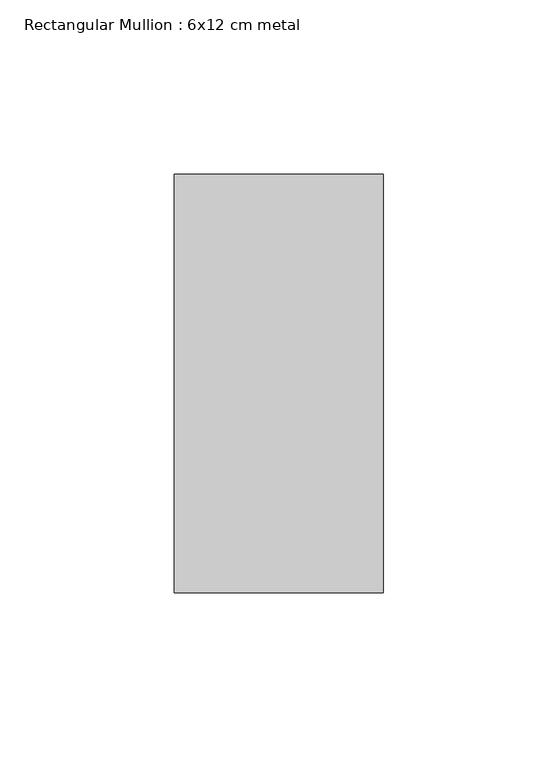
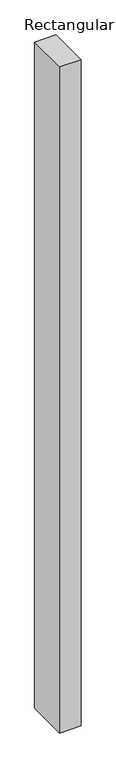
"""IFC4 building model written with IfcOpenShell, lengths in millimetres: member geometry, Rectangular Mullion : 6x12 cm metal."""

import ifcopenshell
import ifcopenshell.guid

model = None  # the IFC model being written
_history = None  # IfcOwnerHistory: only IFC2X3 demands one
_inside = {}  # id of a spatial element -> (the spatial element, [elements in it])
_under = {}  # id of a project, library or spatial element -> (it, [spatial elements below it])
_declared = {}  # id of a project -> (the project, [libraries it declares])
_typed = {}  # id of a type object -> (the type object, [elements of that type])
_made_of = {}  # id of a material, layer set ... -> (it, [elements and type objects made of it])


def new_model(schema):
    """Start an empty IFC model of exactly this schema.

    Asked for "IFC4X3", IfcOpenShell would pick the latest addendum, in which some entities
    have other attributes; the version numbers below select the first issue.
    IFC2X3 requires an IfcOwnerHistory on every rooted entity: one is made here for all.
    """
    global model, _history
    if schema == "IFC4X3":
        model = ifcopenshell.file(schema_version=(4, 3, 0, 0))
    else:
        model = ifcopenshell.file(schema=schema)
    _inside.clear()
    _under.clear()
    _declared.clear()
    _typed.clear()
    _made_of.clear()
    _history = None
    if model.schema == "IFC2X3":
        org = make("IfcOrganization", Name="unknown")
        user = make(
            "IfcPersonAndOrganization",
            ThePerson=make("IfcPerson", FamilyName="unknown"),
            TheOrganization=org,
        )
        app = make(
            "IfcApplication",
            ApplicationDeveloper=org,
            Version="unknown",
            ApplicationFullName="unknown",
            ApplicationIdentifier="unknown",
        )
        _history = make(
            "IfcOwnerHistory",
            OwningUser=user,
            OwningApplication=app,
            ChangeAction="ADDED",
            CreationDate=0,
        )
    return model


def make(cls, **values):
    """One entity of the class cls with the attributes given. An attribute that is None is left unset."""
    return model.create_entity(
        cls, **{name: value for name, value in values.items() if value is not None}
    )


def rooted(cls, **values):
    """An entity with a GlobalId (a new one), such as an element, a storey or a relation."""
    return make(cls, GlobalId=ifcopenshell.guid.new(), OwnerHistory=_history, **values)


def si_unit(unit_type, name, prefix=None):
    """IfcSIUnit, for example si_unit("LENGTHUNIT", "METRE", prefix="MILLI")."""
    return make("IfcSIUnit", UnitType=unit_type, Prefix=prefix, Name=name)


def assignment(units):
    """IfcUnitAssignment: the units of a project."""
    return None if units is None else make("IfcUnitAssignment", Units=units)


def point(xyz):
    """IfcCartesianPoint."""
    return None if xyz is None else make("IfcCartesianPoint", Coordinates=xyz)


def direction(xyz):
    """IfcDirection."""
    return None if xyz is None else make("IfcDirection", DirectionRatios=xyz)


def frame(location, z_axis=None, x_axis=None):
    """IfcAxis2Placement3D, a coordinate frame: its origin and axes. An axis left out is left unset."""
    return make(
        "IfcAxis2Placement3D",
        Location=point(location),
        Axis=direction(z_axis),
        RefDirection=direction(x_axis),
    )


def origin():
    """The frame at (0, 0, 0) with its axes left unset."""
    return frame((0.0, 0.0, 0.0))


def place(relative_to, where):
    """IfcLocalPlacement: puts the frame where relative to a parent placement (None: the world)."""
    return make(
        "IfcLocalPlacement", PlacementRelTo=relative_to, RelativePlacement=where
    )


def context(
    kind, dimensions, precision=None, world=None, true_north=None, identifier=None
):
    """IfcGeometricRepresentationContext, for example the 3D "Model" context."""
    return make(
        "IfcGeometricRepresentationContext",
        ContextIdentifier=identifier,
        ContextType=kind,
        CoordinateSpaceDimension=dimensions,
        Precision=precision,
        WorldCoordinateSystem=world,
        TrueNorth=true_north,
    )


def project(units=None, contexts=None):
    """IfcProject with its units and contexts."""
    return rooted(
        "IfcProject",
        Name="project",
        RepresentationContexts=contexts,
        UnitsInContext=assignment(units),
    )


def spatial(cls, under=None, at=None, **own):
    """A site, building, storey or space (cls), placed at a placement, below another one or the project."""
    s = rooted(cls, ObjectPlacement=at, **own)
    if under is not None:
        _under.setdefault(under.id(), (under, []))[1].append(s)
    return s


def polyline(points):
    """IfcPolyline through the points."""
    return make("IfcPolyline", Points=[point(p) for p in points])


def outline(outer, holes=None, kind="AREA"):
    """IfcArbitraryClosedProfileDef: a profile drawn as a closed curve; with holes, ...WithVoids."""
    if holes is None:
        return make("IfcArbitraryClosedProfileDef", ProfileType=kind, OuterCurve=outer)
    return make(
        "IfcArbitraryProfileDefWithVoids",
        ProfileType=kind,
        OuterCurve=outer,
        InnerCurves=holes,
    )


def extrude(swept, where, along, depth):
    """IfcExtrudedAreaSolid: the profile swept, set in the frame where, extruded along a direction by depth."""
    return make(
        "IfcExtrudedAreaSolid",
        SweptArea=swept,
        Position=where,
        ExtrudedDirection=direction(along),
        Depth=depth,
    )


def shape(context_of_items, identifier, shape_type, items):
    """IfcShapeRepresentation: the items that make up one representation, for example the "Body"."""
    return make(
        "IfcShapeRepresentation",
        ContextOfItems=context_of_items,
        RepresentationIdentifier=identifier,
        RepresentationType=shape_type,
        Items=items,
    )


def source(mapping_origin, context_of_items, identifier, shape_type, items):
    """IfcRepresentationMap: a shape defined once, which mapped items show again and again."""
    return make(
        "IfcRepresentationMap",
        MappingOrigin=mapping_origin,
        MappedRepresentation=shape(context_of_items, identifier, shape_type, items),
    )


def transform(
    local_origin,
    x_axis=None,
    y_axis=None,
    z_axis=None,
    scale=None,
    scale2=None,
    scale3=None,
    uniform=True,
):
    """IfcCartesianTransformationOperator3D, or its non-uniform kind. x_axis, y_axis, z_axis: its Axis1, 2, 3."""
    if uniform:
        return make(
            "IfcCartesianTransformationOperator3D",
            Axis1=direction(x_axis),
            Axis2=direction(y_axis),
            LocalOrigin=point(local_origin),
            Scale=scale,
            Axis3=direction(z_axis),
        )
    return make(
        "IfcCartesianTransformationOperator3DnonUniform",
        Axis1=direction(x_axis),
        Axis2=direction(y_axis),
        LocalOrigin=point(local_origin),
        Scale=scale,
        Axis3=direction(z_axis),
        Scale2=scale2,
        Scale3=scale3,
    )


def mapped(mapping_source, mapping_target):
    """IfcMappedItem: shows the shape of a source again, moved by a transform."""
    return make(
        "IfcMappedItem", MappingSource=mapping_source, MappingTarget=mapping_target
    )


def made_of(thing, what):
    """Note that an element or type object is made of a material, layer set ...; save() writes the relation."""
    if what is not None:
        _made_of.setdefault(what.id(), (what, []))[1].append(thing)
    return thing


def element(
    cls,
    number,
    at=None,
    inside=None,
    cuts=None,
    type_object=None,
    material=None,
    context=None,
    identifier="Body",
    shape_type=None,
    held_by="IfcProductDefinitionShape",
    body=None,
    shapes=None,
    **own,
):
    """One element of the class cls, such as IfcWall. Its Tag is "e" and its number.

    at: its placement. inside: the storey or other place that contains it. cuts: it is an
    opening in that element (IfcRelVoidsElement). A single representation is given by context,
    identifier, shape_type and body (its items); several are given by shapes. held_by: the class
    of the entity that holds the representations. save() writes the other relations.
    """
    e = rooted(cls, Tag="e%d" % number, ObjectPlacement=at, **own)
    if body is not None:
        shapes = [shape(context, identifier, shape_type, body)]
    if shapes is not None:
        e.Representation = make(held_by, Representations=shapes)
    if inside is not None:
        _inside.setdefault(inside.id(), (inside, []))[1].append(e)
    if cuts is not None:
        rooted(
            "IfcRelVoidsElement", RelatingBuildingElement=cuts, RelatedOpeningElement=e
        )
    if type_object is not None:
        _typed.setdefault(type_object.id(), (type_object, []))[1].append(e)
    return made_of(e, material)


def aggregate(whole, parts):
    """IfcRelAggregates: a whole, such as a stair, and the parts it consists of."""
    return rooted("IfcRelAggregates", RelatingObject=whole, RelatedObjects=parts)


def save(model, path):
    """Write the relations noted so far, then the file.

    IfcRelAggregates (storeys below a building ...), IfcRelContainedInSpatialStructure (elements
    in a storey), IfcRelDefinesByType, IfcRelAssociatesMaterial and IfcRelDeclares: one each for
    every whole, place, type object, material and project.
    """
    for whole, parts in _under.values():
        aggregate(whole, parts)
    for where, things in _inside.values():
        rooted(
            "IfcRelContainedInSpatialStructure",
            RelatedElements=things,
            RelatingStructure=where,
        )
    for kind, things in _typed.values():
        rooted("IfcRelDefinesByType", RelatedObjects=things, RelatingType=kind)
    for what, things in _made_of.values():
        rooted("IfcRelAssociatesMaterial", RelatedObjects=things, RelatingMaterial=what)
    for by, libraries in _declared.values():
        rooted("IfcRelDeclares", RelatingContext=by, RelatedDefinitions=libraries)
    model.write(path)


def rectangular_mullion_6x12_cm_metal_57e101c3(model_context):
    return source(origin(), model_context, "Body", "SweptSolid", [
        extrude(outline(polyline([(0.0, 60.0), (0.0, -60.0), (-60.0, -60.0), (-60.0, 60.0), (0.0, 60.0)])), frame((0.0, 0.0, -1969.9478632), z_axis=(0.0, 0.0, 1.0), x_axis=(1.0, 0.0, 0.0)), (0.0, 0.0, 1.0), 1969.9478632),
    ])


if __name__ == "__main__":
    model = new_model("IFC4")
    model_context = context("Model", 3, world=origin())
    ifc_project = project(units=[si_unit("LENGTHUNIT", "METRE", prefix="MILLI")], contexts=[model_context])
    site = spatial("IfcSite", under=ifc_project)
    building = spatial("IfcBuilding", under=site)
    placement = place(None, origin())
    rectangular_mullion_6x12_cm_metal_shape = rectangular_mullion_6x12_cm_metal_57e101c3(model_context)
    element("IfcMember", 1, ObjectType="Rectangular Mullion : 6x12 cm metal", at=placement, inside=building, context=model_context, shape_type="MappedRepresentation", body=[
        mapped(rectangular_mullion_6x12_cm_metal_shape, transform((0.0, 0.0, 0.0), x_axis=(1.0, 0.0, 0.0), y_axis=(0.0, 1.0, 0.0), z_axis=(0.0, 0.0, 1.0))),
    ])
    save(model, "model.ifc")
